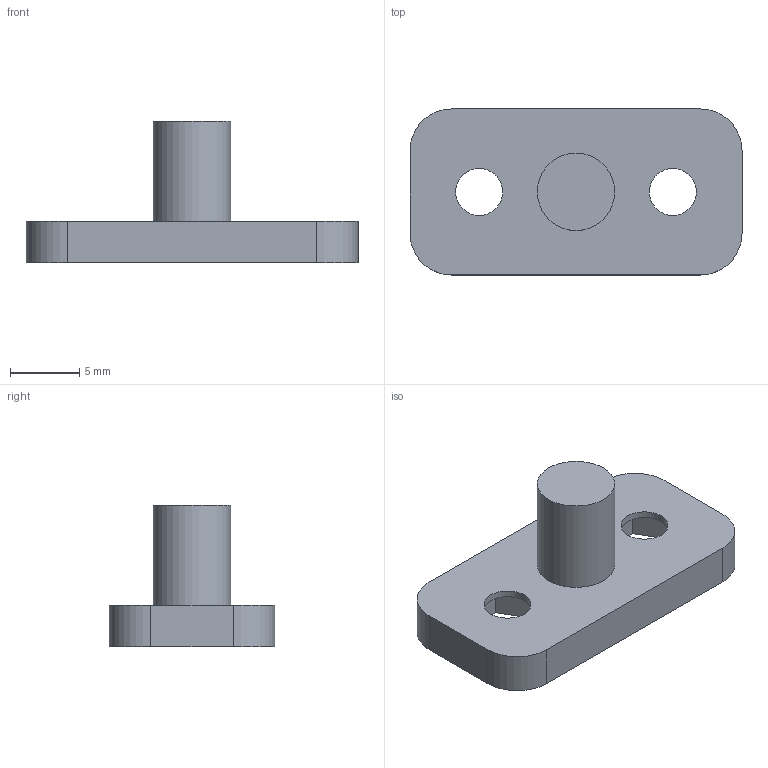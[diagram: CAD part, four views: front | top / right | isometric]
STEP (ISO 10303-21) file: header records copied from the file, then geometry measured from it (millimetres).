
FILE_DESCRIPTION(('Open CASCADE Model'),'2;1');
FILE_NAME('Open CASCADE Shape Model','2026-09-13T15:24:12',('Author'),( 'Open CASCADE'),'Open CASCADE STEP processor 7.9','build123d', 'Unknown');
FILE_SCHEMA(('AUTOMOTIVE_DESIGN { 1 0 10303 214 1 1 1 1 }'));
Length unit declared in the file: millimetre
Products named in the file (2): =>[0:1:1:2]; COMPOUND
Assembly tree (1 placements, depth 2):
  =>[0:1:1:2]
    COMPOUND
Bounding box: 24 x 12 x 10.2 mm (x, y, z)
Volume: 863.3 mm3; surface area: 962.6 mm2
Topology: 1 solids, 1 shells, 28 faces, 69 edges, 46 vertices
Faces by surface type: plane 21, cylinder 7
Full cylindrical faces by diameter (mm): 3.4 x2, 5.6 x1
Entity records: 1760 total; most frequent: CARTESIAN_POINT 283, DIRECTION 281, LINE 179, VECTOR 179, ORIENTED_EDGE 138, PCURVE 138, DEFINITIONAL_REPRESENTATION 138, EDGE_CURVE 69
